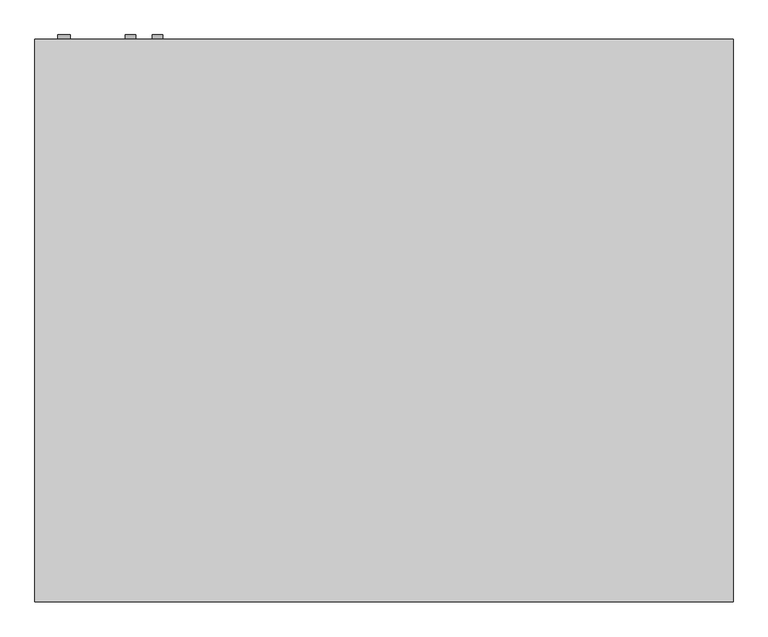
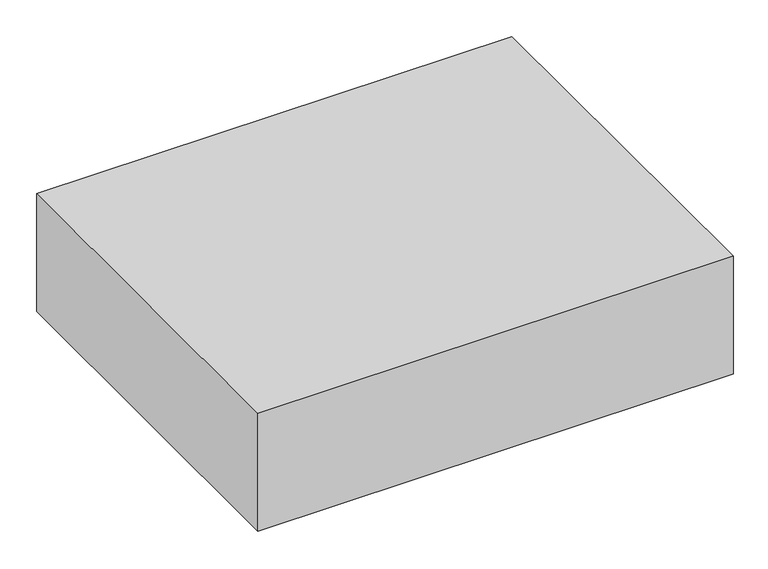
"""IFC4 building model written with IfcOpenShell, lengths in millimetres: proxy geometry, Exposed_Horizontal_Fan_Coil_Unit_-_42CGB_-_CARRIER_-_2-Pipe_Cool-EHeat_BS-BR_LH_2022 : Size 03 - 277v/60Hz/1Ph - 4 Row 3.0kW."""

from ifc_helpers import new_model, si_unit, point, frame, frame_2d, origin, place, context, project, spatial, polyline, circle_curve, trimmed, segment, composite_curve, outline, extrude, source, transform, mapped, element, save


def mechanical_equipment_7b0bbd4d(model_context):
    return source(origin(), model_context, "Body", "SweptSolid", [
        extrude(outline(polyline([(425.45, -439.7375), (425.45, -585.7875), (-120.65, -585.7875), (-120.65, -439.7375), (425.45, -439.7375)])), frame((0.0, 0.0, -285.75), z_axis=(0.0, 0.0, 1.0), x_axis=(1.0, 0.0, 0.0)), (0.0, 0.0, 1.0), 6.35),
        extrude(outline(composite_curve([segment(trimmed(circle_curve(frame_2d((-60.325, -193.675)), 7.9375), [point((-60.325, -185.7375))], [point((-60.325, -201.6125))], False, "CARTESIAN"), True, "CONTINUOUS"), segment(trimmed(circle_curve(frame_2d((-60.325, -193.675)), 7.9375), [point((-60.325, -201.6125))], [point((-60.325, -185.7375))], False, "CARTESIAN"), True, "CONTINUOUS")], self_intersect=False)), frame((0.0, 192.0875, 0.0), z_axis=(0.0, 1.0, 0.0), x_axis=(0.0, 0.0, 1.0)), (0.0, 0.0, 1.0), 6.35),
        extrude(outline(composite_curve([segment(trimmed(circle_curve(frame_2d((-95.25, -234.95)), 7.9375), [point((-95.25, -227.0125))], [point((-95.25, -242.8875))], False, "CARTESIAN"), True, "CONTINUOUS"), segment(trimmed(circle_curve(frame_2d((-95.25, -234.95)), 7.9375), [point((-95.25, -242.8875))], [point((-95.25, -227.0125))], False, "CARTESIAN"), True, "CONTINUOUS")], self_intersect=False)), frame((0.0, 192.0875, 0.0), z_axis=(0.0, 1.0, 0.0), x_axis=(0.0, 0.0, 1.0)), (0.0, 0.0, 1.0), 6.35),
        extrude(outline(composite_curve([segment(trimmed(circle_curve(frame_2d((-260.35, -336.55)), 9.525), [point((-260.35, -327.025))], [point((-260.35, -346.075))], False, "CARTESIAN"), True, "CONTINUOUS"), segment(trimmed(circle_curve(frame_2d((-260.35, -336.55)), 9.525), [point((-260.35, -346.075))], [point((-260.35, -327.025))], False, "CARTESIAN"), True, "CONTINUOUS")], self_intersect=False)), frame((0.0, 192.0875, 0.0), z_axis=(0.0, 1.0, 0.0), x_axis=(0.0, 0.0, 1.0)), (0.0, 0.0, 1.0), 6.35),
        extrude(outline(polyline([(-381.0, 192.0875), (685.8, 192.0875), (685.8, -668.3375), (-381.0, -668.3375), (-381.0, 192.0875)])), frame((0.0, 0.0, -279.4), z_axis=(0.0, 0.0, 1.0), x_axis=(1.0, 0.0, 0.0)), (0.0, 0.0, 1.0), 279.4),
        extrude(outline(polyline([(508.0, 115.8875), (508.0, -138.1125), (-203.2, -138.1125), (-203.2, 115.8875), (508.0, 115.8875)])), frame((0.0, 0.0, -285.75), z_axis=(0.0, 0.0, 1.0), x_axis=(1.0, 0.0, 0.0)), (0.0, 0.0, 1.0), 6.35),
    ])


if __name__ == "__main__":
    model = new_model("IFC4")
    model_context = context("Model", 3, world=origin())
    ifc_project = project(units=[si_unit("LENGTHUNIT", "METRE", prefix="MILLI")], contexts=[model_context])
    site = spatial("IfcSite", under=ifc_project)
    building = spatial("IfcBuilding", under=site)
    placement = place(None, origin())
    mechanical_equipment_shape = mechanical_equipment_7b0bbd4d(model_context)
    element("IfcBuildingElementProxy", 1, Name="Exposed_Horizontal_Fan_Coil_Unit_-_42CGB_-_CARRIER_-_2-Pipe_Cool-EHeat_BS-BR_LH_2022 : Size 03 - 277v/60Hz/1Ph - 4 Row 3.0kW", ObjectType="Exposed_Horizontal_Fan_Coil_Unit_-_42CGB_-_CARRIER_-_2-Pipe_Cool-EHeat_BS-BR_LH_2022 : Size 03 - 277v/60Hz/1Ph - 4 Row 3.0kW", at=placement, inside=building, context=model_context, shape_type="MappedRepresentation", body=[
        mapped(mechanical_equipment_shape, transform((0.0, 0.0, 0.0), x_axis=(1.0, 0.0, 0.0), y_axis=(0.0, 1.0, 0.0), z_axis=(0.0, 0.0, 1.0))),
    ])
    save(model, "model.ifc")
